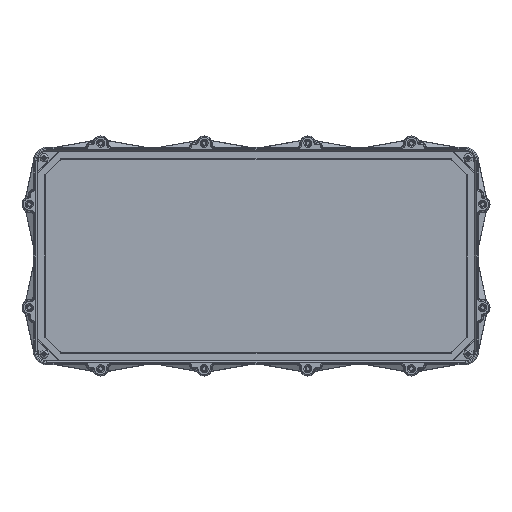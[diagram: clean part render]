
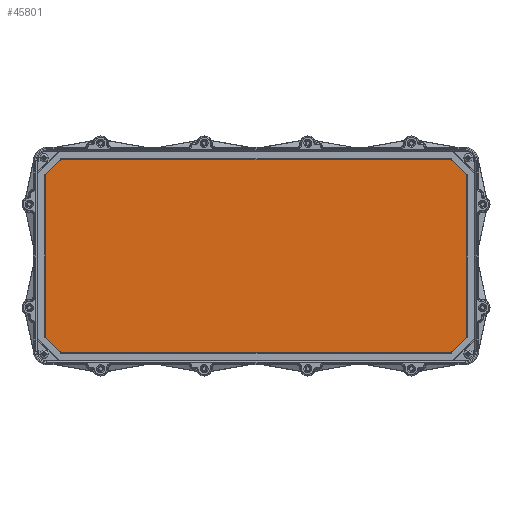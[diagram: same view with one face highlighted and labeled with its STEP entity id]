
A CAD part, front view. The second image highlights one B-rep face of the part: STEP entity #45801.
In plain terms, the highlighted planar face has unit normal (0, -1, 0).
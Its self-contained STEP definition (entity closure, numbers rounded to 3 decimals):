
#45651=CARTESIAN_POINT('',(-7.554,0.071,-3.945));
#45652=CARTESIAN_POINT('',(-7.562,0.071,-3.945));
#45653=CARTESIAN_POINT('',(-7.58,0.071,-3.943));
#45654=CARTESIAN_POINT('',(-7.604,0.071,-3.933));
#45655=CARTESIAN_POINT('',(-7.618,0.071,-3.922));
#45656=CARTESIAN_POINT('',(-7.624,0.071,-3.916));
#45658=DIRECTION('',(-0.707,0.,0.707));
#45659=VECTOR('',#45658,0.964);
#45660=CARTESIAN_POINT('',(-7.624,0.071,-3.916));
#45661=LINE('',#45660,#45659);
#45662=CARTESIAN_POINT('',(-8.306,0.071,-3.234));
#45663=CARTESIAN_POINT('',(-8.312,0.071,-3.228));
#45664=CARTESIAN_POINT('',(-8.323,0.071,-3.214));
#45665=CARTESIAN_POINT('',(-8.333,0.071,-3.19));
#45666=CARTESIAN_POINT('',(-8.335,0.071,-3.172));
#45667=CARTESIAN_POINT('',(-8.335,0.071,-3.164));
#45669=DIRECTION('',(0.,0.,1.));
#45670=VECTOR('',#45669,6.327);
#45671=CARTESIAN_POINT('',(-8.335,0.071,-3.164));
#45672=LINE('',#45671,#45670);
#45673=CARTESIAN_POINT('',(-8.335,0.071,3.164));
#45674=CARTESIAN_POINT('',(-8.335,0.071,3.172));
#45675=CARTESIAN_POINT('',(-8.333,0.071,3.19));
#45676=CARTESIAN_POINT('',(-8.323,0.071,3.214));
#45677=CARTESIAN_POINT('',(-8.312,0.071,3.228));
#45678=CARTESIAN_POINT('',(-8.306,0.071,3.234));
#45680=DIRECTION('',(0.707,0.,0.707));
#45681=VECTOR('',#45680,0.964);
#45682=CARTESIAN_POINT('',(-8.306,0.071,3.234));
#45683=LINE('',#45682,#45681);
#45684=CARTESIAN_POINT('',(-7.624,0.071,3.916));
#45685=CARTESIAN_POINT('',(-7.618,0.071,3.922));
#45686=CARTESIAN_POINT('',(-7.604,0.071,3.933));
#45687=CARTESIAN_POINT('',(-7.58,0.071,3.943));
#45688=CARTESIAN_POINT('',(-7.562,0.071,3.945));
#45689=CARTESIAN_POINT('',(-7.554,0.071,3.945));
#45691=DIRECTION('',(1.,0.,0.));
#45692=VECTOR('',#45691,15.107);
#45693=CARTESIAN_POINT('',(-7.554,0.071,3.945));
#45694=LINE('',#45693,#45692);
#45695=CARTESIAN_POINT('',(7.554,0.071,3.945));
#45696=CARTESIAN_POINT('',(7.562,0.071,3.945));
#45697=CARTESIAN_POINT('',(7.58,0.071,3.943));
#45698=CARTESIAN_POINT('',(7.604,0.071,3.933));
#45699=CARTESIAN_POINT('',(7.618,0.071,3.922));
#45700=CARTESIAN_POINT('',(7.624,0.071,3.916));
#45702=DIRECTION('',(0.707,0.,-0.707));
#45703=VECTOR('',#45702,0.964);
#45704=CARTESIAN_POINT('',(7.624,0.071,3.916));
#45705=LINE('',#45704,#45703);
#45706=CARTESIAN_POINT('',(8.306,0.071,3.234));
#45707=CARTESIAN_POINT('',(8.312,0.071,3.228));
#45708=CARTESIAN_POINT('',(8.323,0.071,3.214));
#45709=CARTESIAN_POINT('',(8.333,0.071,3.19));
#45710=CARTESIAN_POINT('',(8.335,0.071,3.172));
#45711=CARTESIAN_POINT('',(8.335,0.071,3.164));
#45713=DIRECTION('',(0.,0.,-1.));
#45714=VECTOR('',#45713,6.327);
#45715=CARTESIAN_POINT('',(8.335,0.071,3.164));
#45716=LINE('',#45715,#45714);
#45717=CARTESIAN_POINT('',(8.335,0.071,-3.164));
#45718=CARTESIAN_POINT('',(8.335,0.071,-3.172));
#45719=CARTESIAN_POINT('',(8.333,0.071,-3.19));
#45720=CARTESIAN_POINT('',(8.323,0.071,-3.214));
#45721=CARTESIAN_POINT('',(8.312,0.071,-3.228));
#45722=CARTESIAN_POINT('',(8.306,0.071,-3.234));
#45724=DIRECTION('',(-0.707,0.,-0.707));
#45725=VECTOR('',#45724,0.964);
#45726=CARTESIAN_POINT('',(8.306,0.071,-3.234));
#45727=LINE('',#45726,#45725);
#45728=CARTESIAN_POINT('',(7.624,0.071,-3.916));
#45729=CARTESIAN_POINT('',(7.618,0.071,-3.922));
#45730=CARTESIAN_POINT('',(7.604,0.071,-3.933));
#45731=CARTESIAN_POINT('',(7.58,0.071,-3.943));
#45732=CARTESIAN_POINT('',(7.562,0.071,-3.945));
#45733=CARTESIAN_POINT('',(7.554,0.071,-3.945));
#45735=DIRECTION('',(-1.,0.,0.));
#45736=VECTOR('',#45735,15.107);
#45737=CARTESIAN_POINT('',(7.554,0.071,-3.945));
#45738=LINE('',#45737,#45736);
#45739=VERTEX_POINT('',#45651);
#45740=VERTEX_POINT('',#45656);
#45741=CARTESIAN_POINT('',(-8.306,0.071,-3.234));
#45742=VERTEX_POINT('',#45741);
#45743=VERTEX_POINT('',#45667);
#45744=CARTESIAN_POINT('',(-8.335,0.071,3.164));
#45745=VERTEX_POINT('',#45744);
#45746=VERTEX_POINT('',#45678);
#45747=CARTESIAN_POINT('',(-7.624,0.071,3.916));
#45748=VERTEX_POINT('',#45747);
#45749=VERTEX_POINT('',#45689);
#45750=CARTESIAN_POINT('',(7.554,0.071,3.945));
#45751=VERTEX_POINT('',#45750);
#45752=VERTEX_POINT('',#45700);
#45753=CARTESIAN_POINT('',(8.306,0.071,3.234));
#45754=VERTEX_POINT('',#45753);
#45755=VERTEX_POINT('',#45711);
#45756=CARTESIAN_POINT('',(8.335,0.071,-3.164));
#45757=VERTEX_POINT('',#45756);
#45758=VERTEX_POINT('',#45722);
#45759=CARTESIAN_POINT('',(7.624,0.071,-3.916));
#45760=VERTEX_POINT('',#45759);
#45761=VERTEX_POINT('',#45733);
#45762=CARTESIAN_POINT('',(0.,0.071,0.));
#45763=DIRECTION('',(0.,1.,0.));
#45764=DIRECTION('',(1.,0.,0.));
#45765=AXIS2_PLACEMENT_3D('',#45762,#45763,#45764);
#45766=PLANE('',#45765);
#45768=ORIENTED_EDGE('',*,*,#45767,.T.);
#45770=ORIENTED_EDGE('',*,*,#45769,.T.);
#45772=ORIENTED_EDGE('',*,*,#45771,.T.);
#45774=ORIENTED_EDGE('',*,*,#45773,.T.);
#45776=ORIENTED_EDGE('',*,*,#45775,.T.);
#45778=ORIENTED_EDGE('',*,*,#45777,.T.);
#45780=ORIENTED_EDGE('',*,*,#45779,.T.);
#45782=ORIENTED_EDGE('',*,*,#45781,.T.);
#45784=ORIENTED_EDGE('',*,*,#45783,.T.);
#45786=ORIENTED_EDGE('',*,*,#45785,.T.);
#45788=ORIENTED_EDGE('',*,*,#45787,.T.);
#45790=ORIENTED_EDGE('',*,*,#45789,.T.);
#45792=ORIENTED_EDGE('',*,*,#45791,.T.);
#45794=ORIENTED_EDGE('',*,*,#45793,.T.);
#45796=ORIENTED_EDGE('',*,*,#45795,.T.);
#45798=ORIENTED_EDGE('',*,*,#45797,.T.);
#45799=EDGE_LOOP('',(#45768,#45770,#45772,#45774,#45776,#45778,#45780,#45782,
#45784,#45786,#45788,#45790,#45792,#45794,#45796,#45798));
#45800=FACE_OUTER_BOUND('',#45799,.F.);
#45801=ADVANCED_FACE('',(#45800),#45766,.F.);
#45657=B_SPLINE_CURVE_WITH_KNOTS('',3,(#45651,#45652,#45653,#45654,#45655,
#45656),.UNSPECIFIED.,.F.,.F.,(4,1,1,4),(0.,0.333,
0.667,1.),.UNSPECIFIED.);
#45668=B_SPLINE_CURVE_WITH_KNOTS('',3,(#45662,#45663,#45664,#45665,#45666,
#45667),.UNSPECIFIED.,.F.,.F.,(4,1,1,4),(0.,0.333,
0.667,1.),.UNSPECIFIED.);
#45679=B_SPLINE_CURVE_WITH_KNOTS('',3,(#45673,#45674,#45675,#45676,#45677,
#45678),.UNSPECIFIED.,.F.,.F.,(4,1,1,4),(0.,0.333,
0.667,1.),.UNSPECIFIED.);
#45690=B_SPLINE_CURVE_WITH_KNOTS('',3,(#45684,#45685,#45686,#45687,#45688,
#45689),.UNSPECIFIED.,.F.,.F.,(4,1,1,4),(0.,0.333,
0.667,1.),.UNSPECIFIED.);
#45701=B_SPLINE_CURVE_WITH_KNOTS('',3,(#45695,#45696,#45697,#45698,#45699,
#45700),.UNSPECIFIED.,.F.,.F.,(4,1,1,4),(0.,0.333,
0.667,1.),.UNSPECIFIED.);
#45712=B_SPLINE_CURVE_WITH_KNOTS('',3,(#45706,#45707,#45708,#45709,#45710,
#45711),.UNSPECIFIED.,.F.,.F.,(4,1,1,4),(0.,0.333,
0.667,1.),.UNSPECIFIED.);
#45723=B_SPLINE_CURVE_WITH_KNOTS('',3,(#45717,#45718,#45719,#45720,#45721,
#45722),.UNSPECIFIED.,.F.,.F.,(4,1,1,4),(0.,0.333,
0.667,1.),.UNSPECIFIED.);
#45734=B_SPLINE_CURVE_WITH_KNOTS('',3,(#45728,#45729,#45730,#45731,#45732,
#45733),.UNSPECIFIED.,.F.,.F.,(4,1,1,4),(0.,0.333,
0.667,1.),.UNSPECIFIED.);
#45767=EDGE_CURVE('',#45739,#45740,#45657,.T.);
#45769=EDGE_CURVE('',#45740,#45742,#45661,.T.);
#45771=EDGE_CURVE('',#45742,#45743,#45668,.T.);
#45773=EDGE_CURVE('',#45743,#45745,#45672,.T.);
#45775=EDGE_CURVE('',#45745,#45746,#45679,.T.);
#45777=EDGE_CURVE('',#45746,#45748,#45683,.T.);
#45779=EDGE_CURVE('',#45748,#45749,#45690,.T.);
#45781=EDGE_CURVE('',#45749,#45751,#45694,.T.);
#45783=EDGE_CURVE('',#45751,#45752,#45701,.T.);
#45785=EDGE_CURVE('',#45752,#45754,#45705,.T.);
#45787=EDGE_CURVE('',#45754,#45755,#45712,.T.);
#45789=EDGE_CURVE('',#45755,#45757,#45716,.T.);
#45791=EDGE_CURVE('',#45757,#45758,#45723,.T.);
#45793=EDGE_CURVE('',#45758,#45760,#45727,.T.);
#45795=EDGE_CURVE('',#45760,#45761,#45734,.T.);
#45797=EDGE_CURVE('',#45761,#45739,#45738,.T.);
